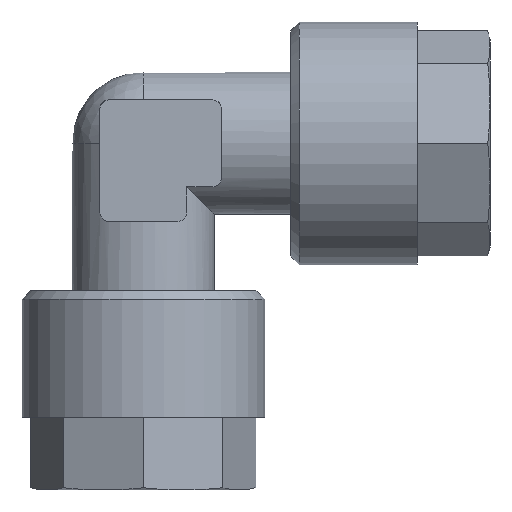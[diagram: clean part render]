
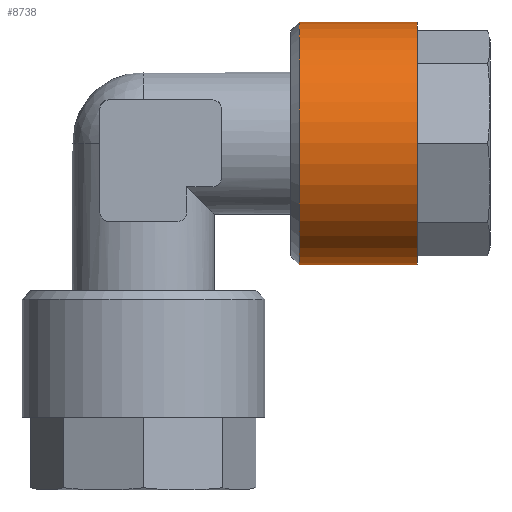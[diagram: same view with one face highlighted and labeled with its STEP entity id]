
A CAD part, front view. The second image highlights one B-rep face of the part: STEP entity #8738.
In plain terms, the highlighted cylindrical face has radius 7 mm (diameter 14 mm), a full revolution.
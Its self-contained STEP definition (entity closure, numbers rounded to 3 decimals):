
#2834=ORIENTED_EDGE('',*,*,#3339,.F.);
#2835=ORIENTED_EDGE('',*,*,#3340,.T.);
#3004=CIRCLE('',#8553,7.);
#3005=CIRCLE('',#8555,7.);
#3138=VERTEX_POINT('',#8257);
#3139=VERTEX_POINT('',#8260);
#3339=EDGE_CURVE('',#3138,#3138,#3004,.T.);
#3340=EDGE_CURVE('',#3139,#3139,#3005,.T.);
#3500=EDGE_LOOP('',(#2834));
#3501=EDGE_LOOP('',(#2835));
#3655=FACE_BOUND('',#3500,.T.);
#3656=FACE_BOUND('',#3501,.T.);
#4087=DIRECTION('',(0.,1.,0.));
#4088=DIRECTION('',(0.,0.,-7.));
#4089=DIRECTION('',(0.,1.,0.));
#4090=DIRECTION('',(1.,0.,0.));
#4091=DIRECTION('',(0.,1.,0.));
#4092=DIRECTION('',(0.,0.,7.));
#8257=CARTESIAN_POINT('',(26.989,21.895,-7.));
#8258=CARTESIAN_POINT('',(26.989,21.895,0.));
#8259=CARTESIAN_POINT('',(26.989,15.095,0.));
#8260=CARTESIAN_POINT('',(26.989,15.095,7.));
#8261=CARTESIAN_POINT('',(26.989,15.095,0.));
#8553=AXIS2_PLACEMENT_3D('',#8258,#4087,#4088);
#8554=AXIS2_PLACEMENT_3D('',#8259,#4089,#4090);
#8555=AXIS2_PLACEMENT_3D('',#8261,#4091,#4092);
#8654=CYLINDRICAL_SURFACE('',#8554,7.);
#8738=ADVANCED_FACE('',(#3655,#3656),#8654,.T.);
